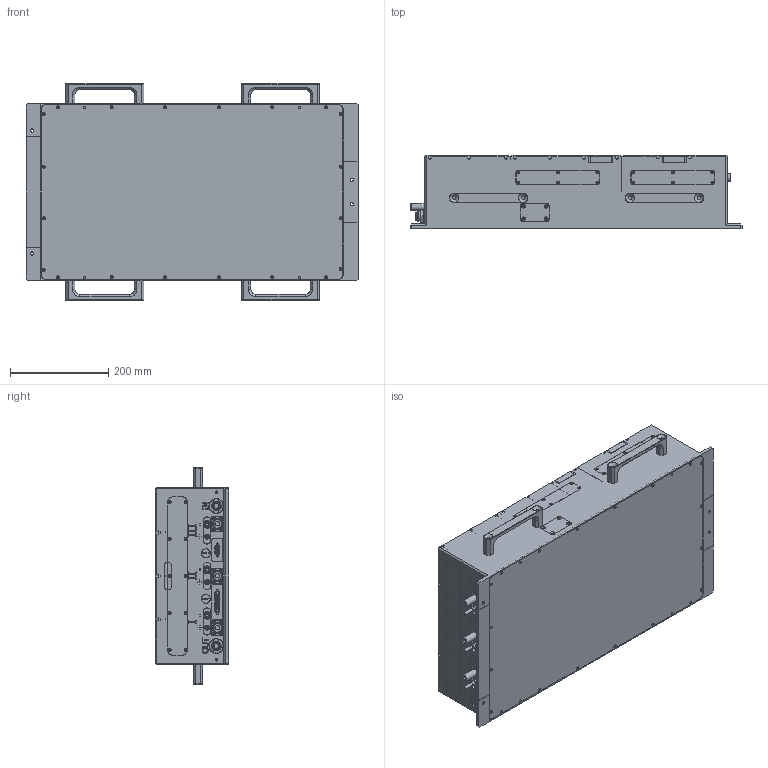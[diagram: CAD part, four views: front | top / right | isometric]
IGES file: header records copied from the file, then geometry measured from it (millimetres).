
Global section: file name: GX; native system: Autodesk Inventor 2017; preprocessor: unknown; author: A.G.; date: 20180709.084849; units: millimetre
Bounding box: 675 x 149.5 x 440 mm (x, y, z)
Volume: 33118831.5 mm3; surface area: 1132511.7 mm2
Topology: 1 solids, 28 shells, 3224 faces, 8408 edges, 5577 vertices
Faces by surface type: bspline 3224
